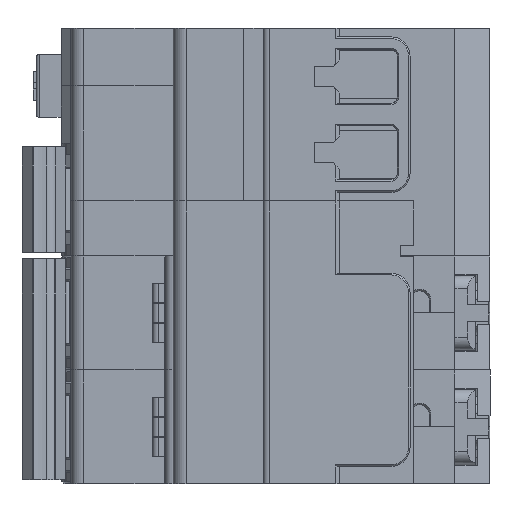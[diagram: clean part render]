
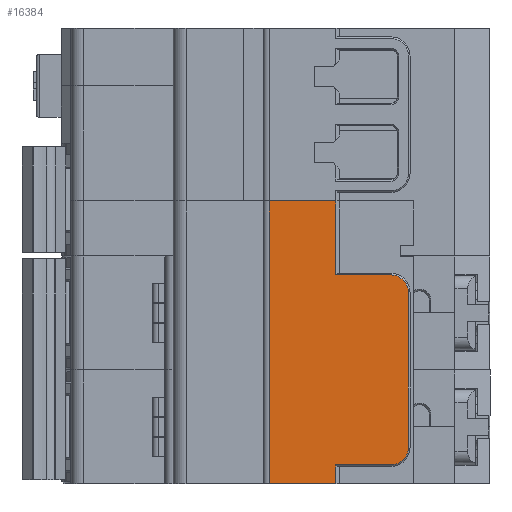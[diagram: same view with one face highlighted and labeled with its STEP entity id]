
A CAD part, left-side view. The second image highlights one B-rep face of the part: STEP entity #16384.
In plain terms, the highlighted planar face has unit normal (-1, 0, 0) as drawn and (0, 0, 1) by its records, which use the part's own axes.
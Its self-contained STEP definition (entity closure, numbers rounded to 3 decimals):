
#16175 = EDGE_CURVE ( 'NONE', #16176, #16177, #25739, .T. ) ;
#16176 = VERTEX_POINT ( 'NONE', #25732 ) ;
#16177 = VERTEX_POINT ( 'NONE', #25730 ) ;
#16267 = VERTEX_POINT ( 'NONE', #26093 ) ;
#16269 = EDGE_CURVE ( 'NONE', #16267, #16270, #26088, .T. ) ;
#16270 = VERTEX_POINT ( 'NONE', #26081 ) ;
#16305 = EDGE_LOOP ( 'NONE', ( #16306, #16310, #16312, #16313, #16314, #16315, #16370, #16373, #16376, #16379 ) ) ;
#16306 = ORIENTED_EDGE ( 'NONE', *, *, #16307, .T. ) ;
#16307 = EDGE_CURVE ( 'NONE', #16308, #16309, #26236, .T. ) ;
#16308 = VERTEX_POINT ( 'NONE', #26229 ) ;
#16309 = VERTEX_POINT ( 'NONE', #26226 ) ;
#16310 = ORIENTED_EDGE ( 'NONE', *, *, #16311, .T. ) ;
#16311 = EDGE_CURVE ( 'NONE', #16309, #16177, #26222, .T. ) ;
#16312 = ORIENTED_EDGE ( 'NONE', *, *, #16175, .F. ) ;
#16313 = ORIENTED_EDGE ( 'NONE', *, *, #16383, .T. ) ;
#16314 = ORIENTED_EDGE ( 'NONE', *, *, #16269, .F. ) ;
#16315 = ORIENTED_EDGE ( 'NONE', *, *, #16368, .T. ) ;
#16368 = EDGE_CURVE ( 'NONE', #16267, #16369, #26346, .T. ) ;
#16369 = VERTEX_POINT ( 'NONE', #26336 ) ;
#16370 = ORIENTED_EDGE ( 'NONE', *, *, #16371, .T. ) ;
#16371 = EDGE_CURVE ( 'NONE', #16369, #16372, #26331, .T. ) ;
#16372 = VERTEX_POINT ( 'NONE', #26325 ) ;
#16373 = ORIENTED_EDGE ( 'NONE', *, *, #16374, .T. ) ;
#16374 = EDGE_CURVE ( 'NONE', #16372, #16375, #26463, .T. ) ;
#16375 = VERTEX_POINT ( 'NONE', #26456 ) ;
#16376 = ORIENTED_EDGE ( 'NONE', *, *, #16377, .T. ) ;
#16377 = EDGE_CURVE ( 'NONE', #16375, #16378, #26452, .T. ) ;
#16378 = VERTEX_POINT ( 'NONE', #26446 ) ;
#16379 = ORIENTED_EDGE ( 'NONE', *, *, #16380, .T. ) ;
#16380 = EDGE_CURVE ( 'NONE', #16378, #16308, #26440, .T. ) ;
#16383 = EDGE_CURVE ( 'NONE', #16176, #16270, #26425, .T. ) ;
#16384 = ADVANCED_FACE ( 'NONE', ( #26409 ), #26407, .T. ) ;
#25730 = CARTESIAN_POINT ( 'NONE',  ( 0., 25.4, 11. ) ) ;
#25732 = CARTESIAN_POINT ( 'NONE',  ( 0., 15., 11. ) ) ;
#25734 = DIRECTION ( 'NONE',  ( 0., 1., 0. ) ) ;
#25735 = VECTOR ( 'NONE', #25734, 1000. ) ;
#25737 = CARTESIAN_POINT ( 'NONE',  ( 0., 15., 11. ) ) ;
#25739 = LINE ( 'NONE', #25737, #25735 ) ;
#26081 = CARTESIAN_POINT ( 'NONE',  ( 44.2, 15., 11. ) ) ;
#26083 = DIRECTION ( 'NONE',  ( 0., -1., 0. ) ) ;
#26085 = VECTOR ( 'NONE', #26083, 1000. ) ;
#26087 = CARTESIAN_POINT ( 'NONE',  ( 44.2, 15., 11. ) ) ;
#26088 = LINE ( 'NONE', #26087, #26085 ) ;
#26093 = CARTESIAN_POINT ( 'NONE',  ( 44.2, 25.4, 11. ) ) ;
#26217 = DIRECTION ( 'NONE',  ( -1., 0., 0. ) ) ;
#26219 = VECTOR ( 'NONE', #26217, 1000. ) ;
#26220 = CARTESIAN_POINT ( 'NONE',  ( 0., 25.4, 11. ) ) ;
#26222 = LINE ( 'NONE', #26220, #26219 ) ;
#26226 = CARTESIAN_POINT ( 'NONE',  ( 11.55, 25.4, 11. ) ) ;
#26229 = CARTESIAN_POINT ( 'NONE',  ( 11.55, 34., 11. ) ) ;
#26231 = DIRECTION ( 'NONE',  ( 0., -1., 0. ) ) ;
#26233 = VECTOR ( 'NONE', #26231, 1000. ) ;
#26234 = CARTESIAN_POINT ( 'NONE',  ( 11.55, 25.4, 11. ) ) ;
#26236 = LINE ( 'NONE', #26234, #26233 ) ;
#26323 = CARTESIAN_POINT ( 'NONE',  ( 38.5, 34., 11. ) ) ;
#26325 = CARTESIAN_POINT ( 'NONE',  ( 41.25, 34., 11. ) ) ;
#26327 = DIRECTION ( 'NONE',  ( 0., 1., 0. ) ) ;
#26329 = VECTOR ( 'NONE', #26327, 1000. ) ;
#26330 = CARTESIAN_POINT ( 'NONE',  ( 41.25, 34., 11. ) ) ;
#26331 = LINE ( 'NONE', #26330, #26329 ) ;
#26336 = CARTESIAN_POINT ( 'NONE',  ( 41.25, 25.4, 11. ) ) ;
#26339 = DIRECTION ( 'NONE',  ( -1., 0., 0. ) ) ;
#26340 = VECTOR ( 'NONE', #26339, 1000. ) ;
#26342 = CARTESIAN_POINT ( 'NONE',  ( 41.5, 25.4, 11. ) ) ;
#26346 = LINE ( 'NONE', #26342, #26340 ) ;
#26398 = DIRECTION ( 'NONE',  ( 1., 0., 0. ) ) ;
#26400 = DIRECTION ( 'NONE',  ( 0., 0., 1. ) ) ;
#26402 = CARTESIAN_POINT ( 'NONE',  ( -22.924, 15., 11. ) ) ;
#26404 = AXIS2_PLACEMENT_3D ( 'NONE', #26402, #26400, #26398 ) ;
#26407 = PLANE ( 'NONE',  #26404 ) ;
#26409 = FACE_OUTER_BOUND ( 'NONE', #16305, .T. ) ;
#26411 = DIRECTION ( 'NONE',  ( 1., 0., 0. ) ) ;
#26413 = VECTOR ( 'NONE', #26411, 1000. ) ;
#26415 = CARTESIAN_POINT ( 'NONE',  ( -22.924, 15., 11. ) ) ;
#26425 = LINE ( 'NONE', #26415, #26413 ) ;
#26434 = DIRECTION ( 'NONE',  ( 1., 0., 0. ) ) ;
#26436 = DIRECTION ( 'NONE',  ( 0., 0., 1. ) ) ;
#26437 = CARTESIAN_POINT ( 'NONE',  ( 14.3, 34., 11. ) ) ;
#26439 = AXIS2_PLACEMENT_3D ( 'NONE', #26437, #26436, #26434 ) ;
#26440 = CIRCLE ( 'NONE', #26439, 2.75 ) ;
#26446 = CARTESIAN_POINT ( 'NONE',  ( 14.3, 36.75, 11. ) ) ;
#26448 = DIRECTION ( 'NONE',  ( -1., 0., 0. ) ) ;
#26449 = VECTOR ( 'NONE', #26448, 1000. ) ;
#26451 = CARTESIAN_POINT ( 'NONE',  ( -22.924, 36.75, 11. ) ) ;
#26452 = LINE ( 'NONE', #26451, #26449 ) ;
#26456 = CARTESIAN_POINT ( 'NONE',  ( 38.5, 36.75, 11. ) ) ;
#26458 = DIRECTION ( 'NONE',  ( 1., 0., 0. ) ) ;
#26460 = DIRECTION ( 'NONE',  ( 0., 0., 1. ) ) ;
#26462 = AXIS2_PLACEMENT_3D ( 'NONE', #26323, #26460, #26458 ) ;
#26463 = CIRCLE ( 'NONE', #26462, 2.75 ) ;
